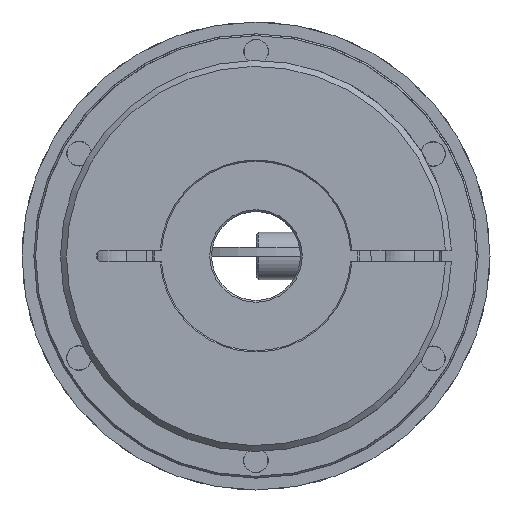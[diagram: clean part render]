
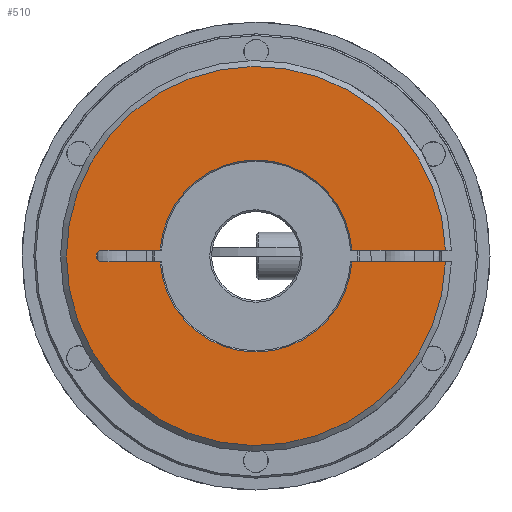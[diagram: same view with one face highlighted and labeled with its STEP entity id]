
A CAD part, left-side view. The second image highlights one B-rep face of the part: STEP entity #510.
In plain terms, the highlighted planar face has unit normal (-1, 0, 0).
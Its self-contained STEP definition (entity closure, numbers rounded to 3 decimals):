
#510 = ADVANCED_FACE( '', ( #894 ), #895, .F. );
#894 = FACE_OUTER_BOUND( '', #1269, .T. );
#895 = PLANE( '', #1270 );
#1269 = EDGE_LOOP( '', ( #1951, #1952, #1953, #1954, #1955, #1956, #1957, #1958 ) );
#1270 = AXIS2_PLACEMENT_3D( '', #1959, #1960, #1961 );
#1951 = ORIENTED_EDGE( '', *, *, #2317, .T. );
#1952 = ORIENTED_EDGE( '', *, *, #2326, .T. );
#1953 = ORIENTED_EDGE( '', *, *, #2306, .T. );
#1954 = ORIENTED_EDGE( '', *, *, #2327, .T. );
#1955 = ORIENTED_EDGE( '', *, *, #2288, .T. );
#1956 = ORIENTED_EDGE( '', *, *, #2310, .T. );
#1957 = ORIENTED_EDGE( '', *, *, #2321, .T. );
#1958 = ORIENTED_EDGE( '', *, *, #2325, .T. );
#1959 = CARTESIAN_POINT( '', ( -27.5, 33., 0. ) );
#1960 = DIRECTION( '', ( 1., 0., 0. ) );
#1961 = DIRECTION( '', ( 0., 1., 0. ) );
#2288 = EDGE_CURVE( '', #2591, #2589, #2592, .T. );
#2306 = EDGE_CURVE( '', #2622, #2623, #2624, .T. );
#2310 = EDGE_CURVE( '', #2589, #2627, #2629, .T. );
#2317 = EDGE_CURVE( '', #2642, #2640, #2643, .T. );
#2321 = EDGE_CURVE( '', #2627, #2648, #2649, .T. );
#2325 = EDGE_CURVE( '', #2648, #2642, #2654, .F. );
#2326 = EDGE_CURVE( '', #2640, #2622, #2655, .T. );
#2327 = EDGE_CURVE( '', #2623, #2591, #2656, .T. );
#2589 = VERTEX_POINT( '', #3328 );
#2591 = VERTEX_POINT( '', #3333 );
#2592 = LINE( '', #3334, #3335 );
#2622 = VERTEX_POINT( '', #3384 );
#2623 = VERTEX_POINT( '', #3385 );
#2624 = LINE( '', #3386, #3387 );
#2627 = VERTEX_POINT( '', #3394 );
#2629 = CIRCLE( '', #3399, 16.2 );
#2640 = VERTEX_POINT( '', #3475 );
#2642 = VERTEX_POINT( '', #3480 );
#2643 = LINE( '', #3481, #3482 );
#2648 = VERTEX_POINT( '', #3493 );
#2649 = LINE( '', #3494, #3495 );
#2654 = CIRCLE( '', #3506, 32. );
#2655 = CIRCLE( '', #3507, 16.2 );
#2656 = CIRCLE( '', #3508, 1. );
#3328 = CARTESIAN_POINT( '', ( -27.5, 16.169, 1. ) );
#3333 = CARTESIAN_POINT( '', ( -27.5, 26., 1. ) );
#3334 = CARTESIAN_POINT( '', ( -27.5, 33., 1. ) );
#3335 = VECTOR( '', #3816, 1000. );
#3384 = CARTESIAN_POINT( '', ( -27.5, 16.169, -1. ) );
#3385 = CARTESIAN_POINT( '', ( -27.5, 26., -1. ) );
#3386 = CARTESIAN_POINT( '', ( -27.5, 33., -1. ) );
#3387 = VECTOR( '', #3842, 1000. );
#3394 = CARTESIAN_POINT( '', ( -27.5, -16.169, 1. ) );
#3399 = AXIS2_PLACEMENT_3D( '', #3844, #3845, #3846 );
#3475 = CARTESIAN_POINT( '', ( -27.5, -16.169, -1. ) );
#3480 = CARTESIAN_POINT( '', ( -27.5, -31.984, -1. ) );
#3481 = CARTESIAN_POINT( '', ( -27.5, 33., -1. ) );
#3482 = VECTOR( '', #3855, 1000. );
#3493 = CARTESIAN_POINT( '', ( -27.5, -31.984, 1. ) );
#3494 = CARTESIAN_POINT( '', ( -27.5, 33., 1. ) );
#3495 = VECTOR( '', #3859, 1000. );
#3506 = AXIS2_PLACEMENT_3D( '', #3863, #3864, #3865 );
#3507 = AXIS2_PLACEMENT_3D( '', #3866, #3867, #3868 );
#3508 = AXIS2_PLACEMENT_3D( '', #3869, #3870, #3871 );
#3816 = DIRECTION( '', ( 0., -1., 0. ) );
#3842 = DIRECTION( '', ( 0., 1., 0. ) );
#3844 = CARTESIAN_POINT( '', ( -27.5, 0., 0. ) );
#3845 = DIRECTION( '', ( 1., 0., 0. ) );
#3846 = DIRECTION( '', ( 0., 0., -1. ) );
#3855 = DIRECTION( '', ( 0., 1., 0. ) );
#3859 = DIRECTION( '', ( 0., -1., 0. ) );
#3863 = CARTESIAN_POINT( '', ( -27.5, 0., 0. ) );
#3864 = DIRECTION( '', ( 1., 0., 0. ) );
#3865 = DIRECTION( '', ( 0., 0., -1. ) );
#3866 = CARTESIAN_POINT( '', ( -27.5, 0., 0. ) );
#3867 = DIRECTION( '', ( 1., 0., 0. ) );
#3868 = DIRECTION( '', ( 0., 0., -1. ) );
#3869 = CARTESIAN_POINT( '', ( -27.5, 26., 0. ) );
#3870 = DIRECTION( '', ( 1., 0., 0. ) );
#3871 = DIRECTION( '', ( 0., 0., -1. ) );
